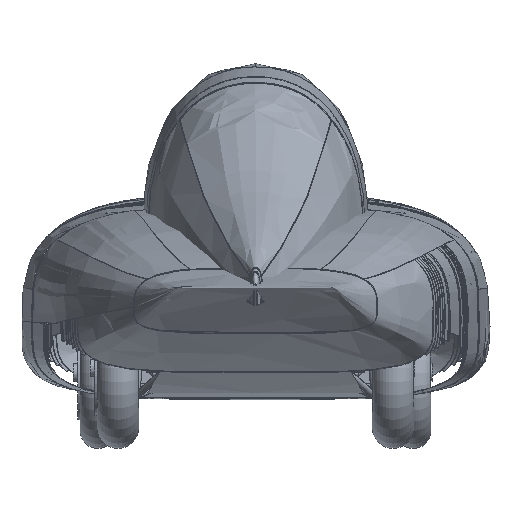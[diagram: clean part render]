
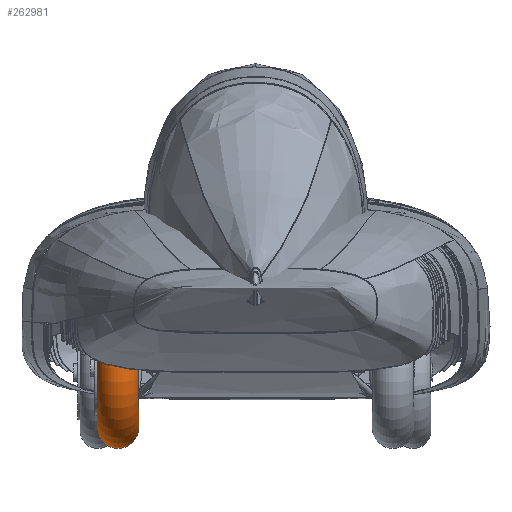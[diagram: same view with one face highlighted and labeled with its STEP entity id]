
A CAD part, left-side view. The second image highlights one B-rep face of the part: STEP entity #262981.
In plain terms, the highlighted toroidal (fillet/blend) face has major radius 208.5 mm and minor radius 72.5 mm.
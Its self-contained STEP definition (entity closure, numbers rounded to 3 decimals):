
#262981 = ADVANCED_FACE('',(#262982),#262995,.T.);
#262982 = FACE_BOUND('',#262983,.T.);
#262983 = EDGE_LOOP('',(#262984,#263013,#263035,#263036));
#262984 = ORIENTED_EDGE('',*,*,#262985,.F.);
#262985 = EDGE_CURVE('',#262986,#262986,#262988,.T.);
#262986 = VERTEX_POINT('',#262987);
#262987 = CARTESIAN_POINT('',(-1750.,480.,562.));
#262988 = SEAM_CURVE('',#262989,(#262994,#263006),.PCURVE_S1.);
#262989 = CIRCLE('',#262990,281.);
#262990 = AXIS2_PLACEMENT_3D('',#262991,#262992,#262993);
#262991 = CARTESIAN_POINT('',(-1750.,480.,281.));
#262992 = DIRECTION('',(0.,1.,0.));
#262993 = DIRECTION('',(0.,-0.,1.));
#262994 = PCURVE('',#262995,#263000);
#262995 = TOROIDAL_SURFACE('',#262996,208.5,72.5);
#262996 = AXIS2_PLACEMENT_3D('',#262997,#262998,#262999);
#262997 = CARTESIAN_POINT('',(-1750.,480.,281.));
#262998 = DIRECTION('',(0.,1.,0.));
#262999 = DIRECTION('',(0.,-0.,1.));
#263000 = DEFINITIONAL_REPRESENTATION('',(#263001),#263005);
#263001 = LINE('',#263002,#263003);
#263002 = CARTESIAN_POINT('',(0.,6.283));
#263003 = VECTOR('',#263004,1.);
#263004 = DIRECTION('',(1.,0.));
#263005 = ( GEOMETRIC_REPRESENTATION_CONTEXT(2) 
PARAMETRIC_REPRESENTATION_CONTEXT() REPRESENTATION_CONTEXT('2D SPACE',''
  ) );
#263006 = PCURVE('',#262995,#263007);
#263007 = DEFINITIONAL_REPRESENTATION('',(#263008),#263012);
#263008 = LINE('',#263009,#263010);
#263009 = CARTESIAN_POINT('',(0.,0.));
#263010 = VECTOR('',#263011,1.);
#263011 = DIRECTION('',(1.,0.));
#263012 = ( GEOMETRIC_REPRESENTATION_CONTEXT(2) 
PARAMETRIC_REPRESENTATION_CONTEXT() REPRESENTATION_CONTEXT('2D SPACE',''
  ) );
#263013 = ORIENTED_EDGE('',*,*,#263014,.F.);
#263014 = EDGE_CURVE('',#262986,#262986,#263015,.T.);
#263015 = SEAM_CURVE('',#263016,(#263021,#263028),.PCURVE_S1.);
#263016 = CIRCLE('',#263017,72.5);
#263017 = AXIS2_PLACEMENT_3D('',#263018,#263019,#263020);
#263018 = CARTESIAN_POINT('',(-1750.,480.,489.5));
#263019 = DIRECTION('',(-1.,0.,0.));
#263020 = DIRECTION('',(0.,0.,1.));
#263021 = PCURVE('',#262995,#263022);
#263022 = DEFINITIONAL_REPRESENTATION('',(#263023),#263027);
#263023 = LINE('',#263024,#263025);
#263024 = CARTESIAN_POINT('',(6.283,-0.));
#263025 = VECTOR('',#263026,1.);
#263026 = DIRECTION('',(0.,1.));
#263027 = ( GEOMETRIC_REPRESENTATION_CONTEXT(2) 
PARAMETRIC_REPRESENTATION_CONTEXT() REPRESENTATION_CONTEXT('2D SPACE',''
  ) );
#263028 = PCURVE('',#262995,#263029);
#263029 = DEFINITIONAL_REPRESENTATION('',(#263030),#263034);
#263030 = LINE('',#263031,#263032);
#263031 = CARTESIAN_POINT('',(0.,-0.));
#263032 = VECTOR('',#263033,1.);
#263033 = DIRECTION('',(0.,1.));
#263034 = ( GEOMETRIC_REPRESENTATION_CONTEXT(2) 
PARAMETRIC_REPRESENTATION_CONTEXT() REPRESENTATION_CONTEXT('2D SPACE',''
  ) );
#263035 = ORIENTED_EDGE('',*,*,#262985,.T.);
#263036 = ORIENTED_EDGE('',*,*,#263014,.T.);
